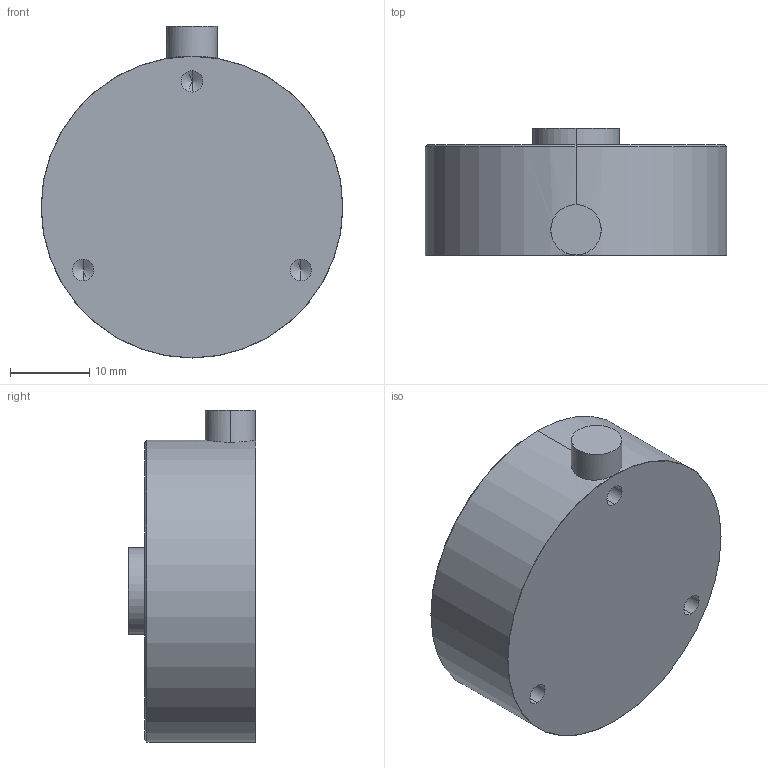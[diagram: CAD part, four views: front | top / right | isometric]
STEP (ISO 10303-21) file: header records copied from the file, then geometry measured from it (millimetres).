
FILE_DESCRIPTION (( 'STEP AP214' ), '1' );
FILE_NAME ('SS1330-10KLB.STEP', '2024-08-19T17:29:47', ( '' ), ( '' ), 'SwSTEP 2.0', 'SolidWorks 2008', '' );
FILE_SCHEMA (( 'AUTOMOTIVE_DESIGN' ));
Length unit declared in the file: inch
Products named in the file (1): SS1330-10KLB
Bounding box: 38.1 x 16.07 x 41.91 mm (x, y, z)
Volume: 16125.3 mm3; surface area: 4245.7 mm2
Topology: 1 solids, 1 shells, 27 faces, 62 edges, 35 vertices
Faces by surface type: cylinder 12, cone 10, plane 3, sphere 2
Entity records: 889 total; most frequent: CARTESIAN_POINT 187, DIRECTION 138, ORIENTED_EDGE 112, AXIS2_PLACEMENT_3D 58, EDGE_CURVE 56, VERTEX_POINT 35, EDGE_LOOP 31, CIRCLE 30
